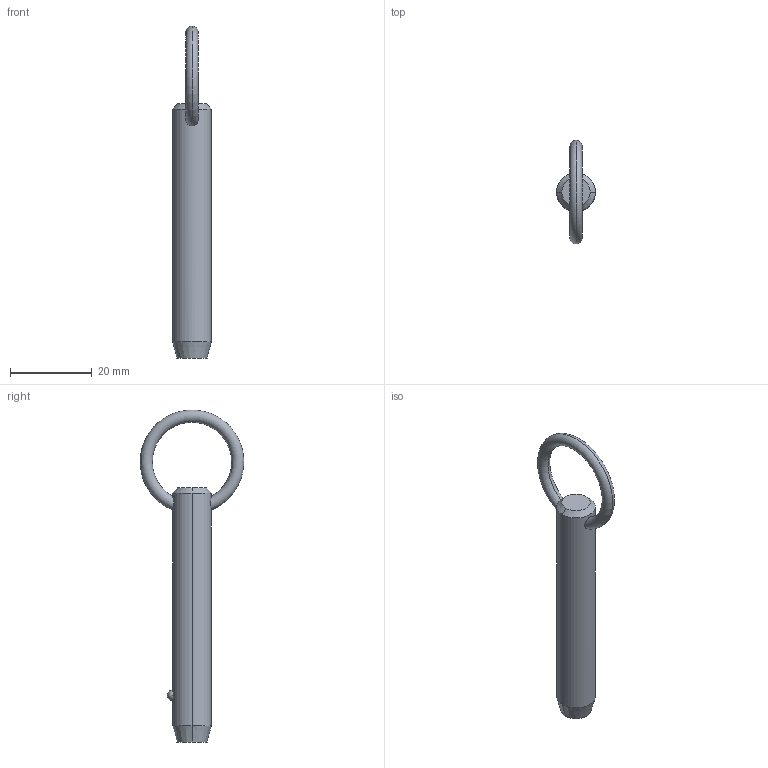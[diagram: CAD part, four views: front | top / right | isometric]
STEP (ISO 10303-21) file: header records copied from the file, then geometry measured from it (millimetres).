
FILE_DESCRIPTION (( 'STEP AP203' ), '1' );
FILE_NAME ('P1250.037-170.step', '2019-07-29T20:00:44', ( '' ), ( '' ), 'SwSTEP 2.0', 'SolidWorks 2017', '' );
FILE_SCHEMA (( 'CONFIG_CONTROL_DESIGN' ));
Length unit declared in the file: millimetre
Products named in the file (1): P1250.037-170
Bounding box: 9.52 x 25.39 x 81.3 mm (x, y, z)
Volume: 4782.2 mm3; surface area: 2504 mm2
Topology: 1 solids, 1 shells, 12 faces, 28 edges, 17 vertices
Faces by surface type: cone 4, torus 2, sphere 2, cylinder 2, plane 2
Entity records: 523 total; most frequent: CARTESIAN_POINT 190, DIRECTION 56, ORIENTED_EDGE 48, AXIS2_PLACEMENT_3D 25, EDGE_CURVE 24, EDGE_LOOP 15, VERTEX_POINT 15, ADVANCED_FACE 12
